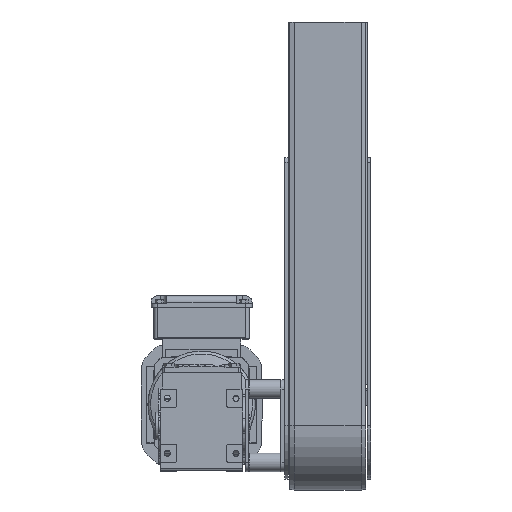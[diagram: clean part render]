
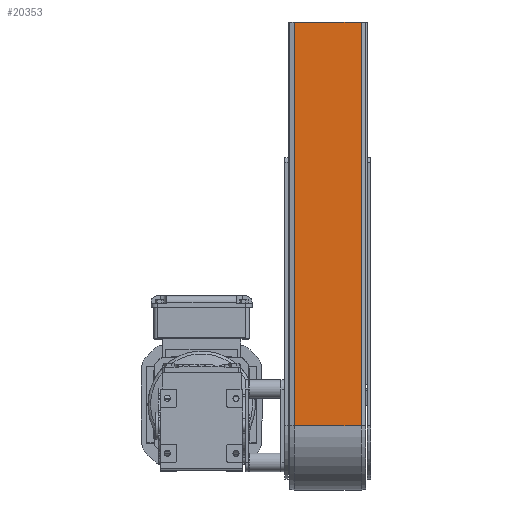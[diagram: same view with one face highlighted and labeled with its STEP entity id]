
A CAD part, top view. The second image highlights one B-rep face of the part: STEP entity #20353.
In plain terms, the highlighted planar face has unit normal (0, 0, 1).
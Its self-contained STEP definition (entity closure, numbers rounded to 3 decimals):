
#1176=FACE_OUTER_BOUND('',#2357,.T.);
#2357=EDGE_LOOP('',(#14397,#14398,#14399,#14400));
#4733=LINE('',#31166,#6594);
#4746=LINE('',#31195,#6607);
#4749=LINE('',#31201,#6610);
#4750=LINE('',#31202,#6611);
#6594=VECTOR('',#24922,10.);
#6607=VECTOR('',#24943,10.);
#6610=VECTOR('',#24948,10.);
#6611=VECTOR('',#24949,10.);
#8476=VERTEX_POINT('',#31158);
#8478=VERTEX_POINT('',#31164);
#8490=VERTEX_POINT('',#31194);
#8492=VERTEX_POINT('',#31200);
#10710=EDGE_CURVE('',#8476,#8478,#4733,.T.);
#10724=EDGE_CURVE('',#8490,#8476,#4746,.T.);
#10727=EDGE_CURVE('',#8492,#8478,#4749,.T.);
#10728=EDGE_CURVE('',#8492,#8490,#4750,.T.);
#14397=ORIENTED_EDGE('',*,*,#10727,.F.);
#14398=ORIENTED_EDGE('',*,*,#10728,.T.);
#14399=ORIENTED_EDGE('',*,*,#10724,.T.);
#14400=ORIENTED_EDGE('',*,*,#10710,.T.);
#19307=PLANE('',#21882);
#20353=ADVANCED_FACE('',(#1176),#19307,.T.);
#21882=AXIS2_PLACEMENT_3D('',#31199,#24946,#24947);
#24922=DIRECTION('',(1.,0.,0.));
#24943=DIRECTION('',(0.,-1.,0.));
#24946=DIRECTION('center_axis',(0.,0.,
1.));
#24947=DIRECTION('ref_axis',(0.,-1.,0.));
#24948=DIRECTION('',(0.,-1.,0.));
#24949=DIRECTION('',(-1.,0.,0.));
#31158=CARTESIAN_POINT('',(-382.941,-717.828,88.256));
#31164=CARTESIAN_POINT('',(-309.941,-717.828,88.256));
#31166=CARTESIAN_POINT('',(-309.941,-717.828,88.256));
#31194=CARTESIAN_POINT('',(-382.941,-277.828,88.256));
#31195=CARTESIAN_POINT('',(-382.941,-277.828,88.256));
#31199=CARTESIAN_POINT('Origin',(-382.941,-277.828,88.256));
#31200=CARTESIAN_POINT('',(-309.941,-277.828,88.256));
#31201=CARTESIAN_POINT('',(-309.941,-277.828,88.256));
#31202=CARTESIAN_POINT('',(-309.941,-277.828,88.256));
